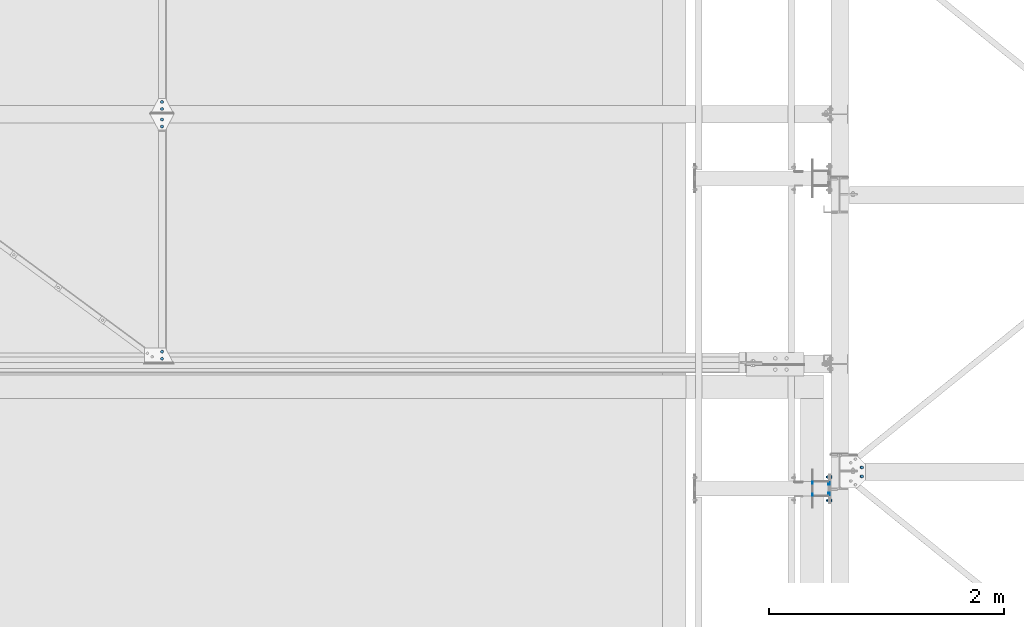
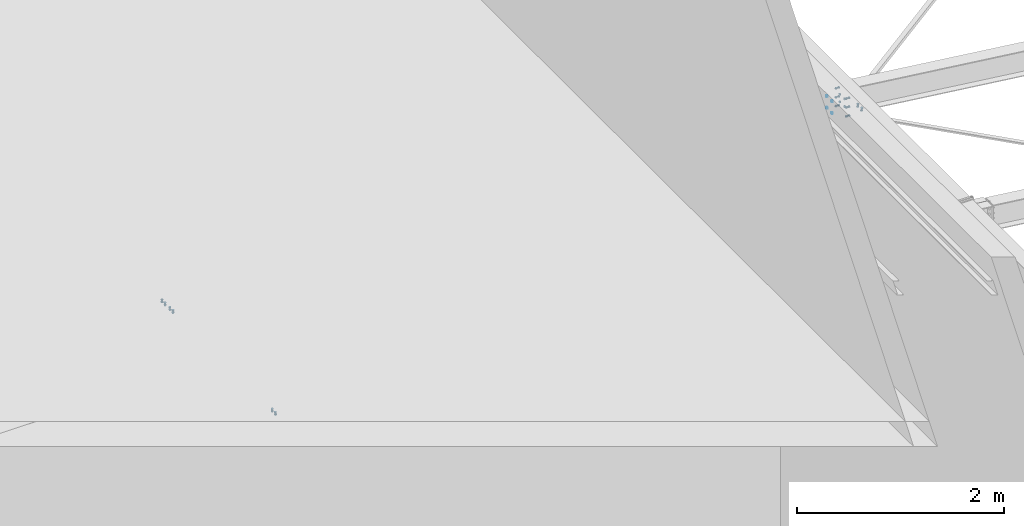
# One storey, part 32 of 3134: 7 mechanical fasteners, 5 elements without a shape of their own.
"""IFC2X3 building model written with IfcOpenShell, lengths in millimetres."""

from ifc_helpers import new_model, si_unit, frame, origin_with_axes, place, context, subcontext, project, spatial, faceted_brep, source, transform, mapped, material, type_object, element, aggregate, save


model = new_model("IFC2X3")

# Units and contexts
model_context = context("Model", 3, precision=1e-05, world=origin_with_axes())
body_context = subcontext(model_context, "Body", "Model", "MODEL_VIEW")
ifc_project = project(units=[si_unit("LENGTHUNIT", "METRE", prefix="MILLI"), si_unit("AREAUNIT", "SQUARE_METRE"), si_unit("VOLUMEUNIT", "CUBIC_METRE"), si_unit("MASSUNIT", "GRAM", prefix="KILO"), si_unit("TIMEUNIT", "SECOND"), si_unit("PLANEANGLEUNIT", "RADIAN"), si_unit("SOLIDANGLEUNIT", "STERADIAN"), si_unit("THERMODYNAMICTEMPERATUREUNIT", "DEGREE_CELSIUS"), si_unit("LUMINOUSINTENSITYUNIT", "LUMEN")], contexts=[model_context])

# Site, building, storey
site_placement = place(None, origin_with_axes())
site = spatial("IfcSite", under=ifc_project, at=site_placement, CompositionType="ELEMENT")
building_placement = place(site_placement, origin_with_axes())
building = spatial("IfcBuilding", under=site, at=building_placement, Name="Undefined", CompositionType="ELEMENT")
storey_placement = place(building_placement, origin_with_axes())
storey = spatial("IfcBuildingStorey", under=building, at=storey_placement, Name="Undefined", CompositionType="ELEMENT", Elevation=0.0)

# Assembly, mechanical fastener
assembly_1_placement = place(storey_placement, origin_with_axes())
assembly_1 = element("IfcElementAssembly", 1, at=assembly_1_placement, inside=storey, Name="300", AssemblyPlace="NOTDEFINED", PredefinedType="RIGID_FRAME")
ifc_material = material(Name="8.8")
mechanical_fastener_type = type_object("IfcMechanicalFastenerType", Name="Bolt assembly")
shared_shape_1 = source(origin_with_axes(), body_context, "Body", "Brep", [
    faceted_brep([(13.856406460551, -19.199990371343, 0.0), (6.92820323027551, -19.199990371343, 12.0), (-6.92820323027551, -19.199990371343, 12.0), (-13.856406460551, -19.199990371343, 1.69692038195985e-15), (-6.92820323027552, -19.199990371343, -12.0), (6.9282032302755, -19.199990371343, -12.0), (6.9282032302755, -9.19999037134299, -12.0), (-6.92820323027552, -9.19999037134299, -12.0), (-13.856406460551, -9.19999037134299, 1.69692038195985e-15), (-6.92820323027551, -9.19999037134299, 12.0), (6.92820323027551, -9.19999037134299, 12.0), (13.856406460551, -9.19999037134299, 0.0), (8.0, -9.19999037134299, 0.0), (6.92820323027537, -9.19999037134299, 4.00000000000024), (3.99999999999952, -9.19999037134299, 6.92820323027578), (-8.29068785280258e-13, -9.19999037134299, 8.0), (-4.00000000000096, -9.19999037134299, 6.92820323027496), (-6.9282032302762, -9.19999037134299, 3.99999999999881), (-8.0, -9.19999037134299, -1.65813757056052e-12), (-6.92820323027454, -9.19999037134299, -4.00000000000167), (-3.99999999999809, -9.19999037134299, -6.92820323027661), (2.47832457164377e-12, -9.19999037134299, -8.0), (4.00000000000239, -9.19999037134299, -6.92820323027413), (6.92820323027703, -9.19999037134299, -3.99999999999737), (6.92820323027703, 25.800009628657, -3.99999999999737), (4.00000000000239, 25.800009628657, -6.92820323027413), (2.47832457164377e-12, 25.800009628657, -8.0), (-3.99999999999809, 25.800009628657, -6.92820323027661), (-6.92820323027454, 25.800009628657, -4.00000000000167), (-8.0, 25.800009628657, -1.65813757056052e-12), (-6.9282032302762, 25.800009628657, 3.99999999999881), (-4.00000000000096, 25.800009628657, 6.92820323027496), (-8.29068785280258e-13, 25.800009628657, 8.0), (3.99999999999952, 25.800009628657, 6.92820323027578), (6.92820323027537, 25.800009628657, 4.00000000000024), (8.0, 25.800009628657, 0.0), (13.856406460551, 8.00000637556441, 0.0), (6.92820323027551, 8.00000637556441, 12.0), (-6.92820323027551, 8.00000637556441, 12.0), (-13.856406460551, 8.00000637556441, 1.69692038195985e-15), (-6.92820323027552, 8.00000637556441, -12.0), (6.9282032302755, 8.00000637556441, -12.0), (6.9282032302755, 21.0000063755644, -12.0), (-6.92820323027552, 21.0000063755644, -12.0), (-13.856406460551, 21.0000063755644, 1.69692038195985e-15), (-6.92820323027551, 21.0000063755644, 12.0), (6.92820323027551, 21.0000063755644, 12.0), (13.856406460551, 21.0000063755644, 0.0)], [[[0, 1, 2, 3, 4, 5]], [[6, 7, 8, 9, 10, 11]], [[0, 11, 10, 1]], [[1, 10, 9, 2]], [[2, 9, 8, 3]], [[3, 8, 7, 4]], [[4, 7, 6, 5]], [[5, 6, 11, 0]], [[12, 13, 14, 15, 16, 17, 18, 19, 20, 21, 22, 23]], [[24, 25, 26, 27, 28, 29, 30, 31, 32, 33, 34, 35]], [[12, 35, 34, 13]], [[13, 34, 33, 14]], [[14, 33, 32, 15]], [[15, 32, 31, 16]], [[16, 31, 30, 17]], [[17, 30, 29, 18]], [[18, 29, 28, 19]], [[19, 28, 27, 20]], [[20, 27, 26, 21]], [[21, 26, 25, 22]], [[22, 25, 24, 23]], [[23, 24, 35, 12]], [[36, 37, 38, 39, 40, 41]], [[42, 43, 44, 45, 46, 47]], [[36, 47, 46, 37]], [[37, 46, 45, 38]], [[38, 45, 44, 39]], [[39, 44, 43, 40]], [[40, 43, 42, 41]], [[41, 42, 47, 36]]]),
    faceted_brep([(9.0, -0.1, 0.0), (7.79422863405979, -0.1, 4.50000000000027), (4.49999999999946, -0.1, 7.79422863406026), (-9.3270238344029e-13, -0.1, 9.0), (-4.50000000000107, -0.1, 7.79422863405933), (-7.79422863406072, -0.1, 4.49999999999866), (-9.0, -0.1, -1.86540476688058e-12), (-7.79422863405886, -0.1, -4.50000000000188), (-4.49999999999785, -0.1, -7.79422863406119), (2.78811514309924e-12, -0.1, -9.0), (4.50000000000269, -0.1, -7.7942286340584), (7.79422863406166, -0.1, -4.49999999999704), (7.79422863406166, 8.00000000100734, -4.49999999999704), (4.50000000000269, 8.00000000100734, -7.7942286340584), (2.78811514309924e-12, 8.00000000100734, -9.0), (-4.49999999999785, 8.00000000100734, -7.79422863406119), (-7.79422863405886, 8.00000000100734, -4.50000000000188), (-9.0, 8.00000000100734, -1.86540476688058e-12), (-7.79422863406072, 8.00000000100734, 4.49999999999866), (-4.50000000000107, 8.00000000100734, 7.79422863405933), (-9.3270238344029e-13, 8.00000000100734, 9.0), (4.49999999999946, 8.00000000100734, 7.79422863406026), (7.79422863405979, 8.00000000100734, 4.50000000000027), (9.0, 8.00000000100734, 0.0), (9.0, -9.09999037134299, 0.0), (7.79422863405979, -9.09999037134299, 4.50000000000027), (4.49999999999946, -9.09999037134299, 7.79422863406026), (-9.3270238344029e-13, -9.09999037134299, 9.0), (-4.50000000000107, -9.09999037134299, 7.79422863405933), (-7.79422863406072, -9.09999037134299, 4.49999999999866), (-9.0, -9.09999037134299, -1.86540476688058e-12), (-7.79422863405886, -9.09999037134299, -4.50000000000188), (-4.49999999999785, -9.09999037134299, -7.79422863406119), (2.78811514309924e-12, -9.09999037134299, -9.0), (4.50000000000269, -9.09999037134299, -7.7942286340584), (7.79422863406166, -9.09999037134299, -4.49999999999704), (7.79422863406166, 0.100000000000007, -4.49999999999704), (4.50000000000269, 0.100000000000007, -7.7942286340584), (2.78811514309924e-12, 0.100000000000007, -9.0), (-4.49999999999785, 0.100000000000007, -7.79422863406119), (-7.79422863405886, 0.100000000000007, -4.50000000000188), (-9.0, 0.100000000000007, -1.86540476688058e-12), (-7.79422863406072, 0.100000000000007, 4.49999999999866), (-4.50000000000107, 0.100000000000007, 7.79422863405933), (-9.3270238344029e-13, 0.100000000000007, 9.0), (4.49999999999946, 0.100000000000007, 7.79422863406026), (7.79422863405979, 0.100000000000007, 4.50000000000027), (9.0, 0.100000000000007, 0.0)], [[[0, 1, 2, 3, 4, 5, 6, 7, 8, 9, 10, 11]], [[12, 13, 14, 15, 16, 17, 18, 19, 20, 21, 22, 23]], [[0, 23, 22, 1]], [[1, 22, 21, 2]], [[2, 21, 20, 3]], [[3, 20, 19, 4]], [[4, 19, 18, 5]], [[5, 18, 17, 6]], [[6, 17, 16, 7]], [[7, 16, 15, 8]], [[8, 15, 14, 9]], [[9, 14, 13, 10]], [[10, 13, 12, 11]], [[11, 12, 23, 0]], [[24, 25, 26, 27, 28, 29, 30, 31, 32, 33, 34, 35]], [[36, 37, 38, 39, 40, 41, 42, 43, 44, 45, 46, 47]], [[24, 47, 46, 25]], [[25, 46, 45, 26]], [[26, 45, 44, 27]], [[27, 44, 43, 28]], [[28, 43, 42, 29]], [[29, 42, 41, 30]], [[30, 41, 40, 31]], [[31, 40, 39, 32]], [[32, 39, 38, 33]], [[33, 38, 37, 34]], [[34, 37, 36, 35]], [[35, 36, 47, 24]]]),
])
mechanical_fastener_1_placement = place(assembly_1_placement, frame((21039.2248162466, 10047.9995130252, 5496.68063423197), z_axis=(0.992623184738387, 1.63108538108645e-05, -0.12124031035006), x_axis=(1.62000016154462e-05, -0.999999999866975, -1.90000018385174e-06)))
mechanical_fastener_1 = element("IfcMechanicalFastener", 2, at=mechanical_fastener_1_placement, type_object=mechanical_fastener_type, material=ifc_material, Name="Bolt assembly", NominalDiameter=16.0, NominalLength=35.0, context=body_context, shape_type="MappedRepresentation", body=[
    mapped(shared_shape_1, transform((0.0, 0.0, 0.0))),
    mapped(shared_shape_1, transform((76.0, 0.0, 0.0))),
])
aggregate(assembly_1, [mechanical_fastener_1])

# Assembly, mechanical fasteners
assembly_2_placement = place(storey_placement, origin_with_axes())
assembly_2 = element("IfcElementAssembly", 3, at=assembly_2_placement, inside=storey, AssemblyPlace="NOTDEFINED", PredefinedType="RIGID_FRAME")
shared_shape_2 = source(origin_with_axes(), body_context, "Body", "Brep", [
    faceted_brep([(9.0, -3.46568413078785e-07, 0.0), (7.79422863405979, -3.46568413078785e-07, 4.50000000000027), (4.49999999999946, -3.46568413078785e-07, 7.79422863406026), (-9.3270238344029e-13, -3.46568413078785e-07, 9.0), (-4.50000000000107, -3.46568413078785e-07, 7.79422863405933), (-7.79422863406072, -3.46568413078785e-07, 4.49999999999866), (-9.0, -3.46568413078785e-07, -1.86540476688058e-12), (-7.79422863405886, -3.46568413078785e-07, -4.50000000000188), (-4.49999999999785, -3.46568413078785e-07, -7.79422863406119), (2.78811514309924e-12, -3.46568413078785e-07, -9.0), (4.50000000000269, -3.46568413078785e-07, -7.7942286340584), (7.79422863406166, -3.46568413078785e-07, -4.49999999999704), (7.79422863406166, 6.1, -4.49999999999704), (4.50000000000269, 6.1, -7.7942286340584), (2.78811514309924e-12, 6.1, -9.0), (-4.49999999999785, 6.1, -7.79422863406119), (-7.79422863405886, 6.1, -4.50000000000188), (-9.0, 6.1, -1.86540476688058e-12), (-7.79422863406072, 6.1, 4.49999999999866), (-4.50000000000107, 6.1, 7.79422863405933), (-9.3270238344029e-13, 6.1, 9.0), (4.49999999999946, 6.1, 7.79422863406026), (7.79422863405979, 6.1, 4.50000000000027), (9.0, 6.1, 0.0)], [[[0, 1, 2, 3, 4, 5, 6, 7, 8, 9, 10, 11]], [[12, 13, 14, 15, 16, 17, 18, 19, 20, 21, 22, 23]], [[0, 23, 22, 1]], [[1, 22, 21, 2]], [[2, 21, 20, 3]], [[3, 20, 19, 4]], [[4, 19, 18, 5]], [[5, 18, 17, 6]], [[6, 17, 16, 7]], [[7, 16, 15, 8]], [[8, 15, 14, 9]], [[9, 14, 13, 10]], [[10, 13, 12, 11]], [[11, 12, 23, 0]]]),
])
mechanical_fastener_2_placement = place(assembly_2_placement, frame((20615.0, 9916.50190722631, 5760.0), z_axis=(0.0, 0.0, 1.0), x_axis=(0.0, -1.0, 0.0)))
mechanical_fastener_2 = element("IfcMechanicalFastener", 4, at=mechanical_fastener_2_placement, type_object=mechanical_fastener_type, material=ifc_material, Name="Bolt assembly", NominalDiameter=16.0, NominalLength=6.0, context=body_context, shape_type="MappedRepresentation", body=[
    mapped(shared_shape_2, transform((0.0, 0.0, -70.0))),
    mapped(shared_shape_2, transform((100.0, 0.0, -70.0))),
    mapped(shared_shape_2, transform((0.0, 0.0, 70.0))),
    mapped(shared_shape_2, transform((100.0, 0.0, 70.0))),
])
shared_shape_3 = source(origin_with_axes(), body_context, "Body", "Brep", [
    faceted_brep([(11.0, 0.0, 0.0), (9.52627944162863, 0.0, 5.50000000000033), (5.49999999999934, 0.0, 9.5262794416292), (-1.13996957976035e-12, 0.0, 11.0), (-5.50000000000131, 0.0, 9.52627944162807), (-9.52627944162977, 0.0, 5.49999999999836), (-11.0, 0.0, -2.27993915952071e-12), (-9.5262794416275, 0.0, -5.5000000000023), (-5.49999999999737, 0.0, -9.52627944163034), (3.40769628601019e-12, 0.0, -11.0), (5.50000000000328, 0.0, -9.52627944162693), (9.52627944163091, 0.0, -5.49999999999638), (9.52627944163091, 10.1, -5.49999999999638), (5.50000000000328, 10.1, -9.52627944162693), (3.40769628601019e-12, 10.1, -11.0), (-5.49999999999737, 10.1, -9.52627944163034), (-9.5262794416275, 10.1, -5.5000000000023), (-11.0, 10.1, -2.27993915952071e-12), (-9.52627944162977, 10.1, 5.49999999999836), (-5.50000000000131, 10.1, 9.52627944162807), (-1.13996957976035e-12, 10.1, 11.0), (5.49999999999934, 10.1, 9.5262794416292), (9.52627944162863, 10.1, 5.50000000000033), (11.0, 10.1, 0.0)], [[[0, 1, 2, 3, 4, 5, 6, 7, 8, 9, 10, 11]], [[12, 13, 14, 15, 16, 17, 18, 19, 20, 21, 22, 23]], [[0, 23, 22, 1]], [[1, 22, 21, 2]], [[2, 21, 20, 3]], [[3, 20, 19, 4]], [[4, 19, 18, 5]], [[5, 18, 17, 6]], [[6, 17, 16, 7]], [[7, 16, 15, 8]], [[8, 15, 14, 9]], [[9, 14, 13, 10]], [[10, 13, 12, 11]], [[11, 12, 23, 0]]]),
])
mechanical_fastener_3_placement = place(assembly_2_placement, frame((20755.0, 9911.50190722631, 5760.0), z_axis=(0.0, 0.0, 1.0), x_axis=(0.0, -1.0, 0.0)))
mechanical_fastener_3 = element("IfcMechanicalFastener", 5, at=mechanical_fastener_3_placement, type_object=mechanical_fastener_type, material=ifc_material, Name="Bolt assembly", NominalDiameter=20.0, NominalLength=10.0, context=body_context, shape_type="MappedRepresentation", body=[
    mapped(shared_shape_3, transform((0.0, 0.0, -45.0))),
    mapped(shared_shape_3, transform((90.0, 0.0, -45.0))),
    mapped(shared_shape_3, transform((0.0, 0.0, 45.0))),
    mapped(shared_shape_3, transform((90.0, 0.0, 45.0))),
])
aggregate(assembly_2, [mechanical_fastener_3, mechanical_fastener_2])

# Assembly, mechanical fastener
assembly_3_placement = place(storey_placement, origin_with_axes())
assembly_3 = element("IfcElementAssembly", 6, at=assembly_3_placement, inside=storey, Name="300", AssemblyPlace="NOTDEFINED", PredefinedType="RIGID_FRAME")
shared_shape_4 = source(origin_with_axes(), body_context, "Body", "Brep", [
    faceted_brep([(13.856406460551, -30.0, 0.0), (6.92820323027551, -30.0, 12.0), (-6.92820323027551, -30.0, 12.0), (-13.856406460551, -30.0, 1.69692038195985e-15), (-6.92820323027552, -30.0, -12.0), (6.9282032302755, -30.0, -12.0), (6.9282032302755, -20.0, -12.0), (-6.92820323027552, -20.0, -12.0), (-13.856406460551, -20.0, 1.69692038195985e-15), (-6.92820323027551, -20.0, 12.0), (6.92820323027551, -20.0, 12.0), (13.856406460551, -20.0, 0.0), (8.0, -20.0, 0.0), (6.92820323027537, -20.0, 4.00000000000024), (3.99999999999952, -20.0, 6.92820323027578), (-8.29068785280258e-13, -20.0, 8.0), (-4.00000000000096, -20.0, 6.92820323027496), (-6.9282032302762, -20.0, 3.99999999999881), (-8.0, -20.0, -1.65813757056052e-12), (-6.92820323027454, -20.0, -4.00000000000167), (-3.99999999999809, -20.0, -6.92820323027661), (2.47832457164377e-12, -20.0, -8.0), (4.00000000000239, -20.0, -6.92820323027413), (6.92820323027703, -20.0, -3.99999999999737), (6.92820323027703, 20.0, -3.99999999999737), (4.00000000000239, 20.0, -6.92820323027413), (2.47832457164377e-12, 20.0, -8.0), (-3.99999999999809, 20.0, -6.92820323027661), (-6.92820323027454, 20.0, -4.00000000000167), (-8.0, 20.0, -1.65813757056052e-12), (-6.9282032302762, 20.0, 3.99999999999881), (-4.00000000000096, 20.0, 6.92820323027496), (-8.29068785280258e-13, 20.0, 8.0), (3.99999999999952, 20.0, 6.92820323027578), (6.92820323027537, 20.0, 4.00000000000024), (8.0, 20.0, 0.0), (13.856406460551, 0.0, 0.0), (6.92820323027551, 0.0, 12.0), (-6.92820323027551, 0.0, 12.0), (-13.856406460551, 0.0, 1.69692038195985e-15), (-6.92820323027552, 0.0, -12.0), (6.9282032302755, 0.0, -12.0), (6.9282032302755, 12.9999996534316, -12.0), (-6.92820323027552, 12.9999996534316, -12.0), (-13.856406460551, 12.9999996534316, 1.69692038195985e-15), (-6.92820323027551, 12.9999996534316, 12.0), (6.92820323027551, 12.9999996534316, 12.0), (13.856406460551, 12.9999996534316, 0.0)], [[[0, 1, 2, 3, 4, 5]], [[6, 7, 8, 9, 10, 11]], [[0, 11, 10, 1]], [[1, 10, 9, 2]], [[2, 9, 8, 3]], [[3, 8, 7, 4]], [[4, 7, 6, 5]], [[5, 6, 11, 0]], [[12, 13, 14, 15, 16, 17, 18, 19, 20, 21, 22, 23]], [[24, 25, 26, 27, 28, 29, 30, 31, 32, 33, 34, 35]], [[12, 35, 34, 13]], [[13, 34, 33, 14]], [[14, 33, 32, 15]], [[15, 32, 31, 16]], [[16, 31, 30, 17]], [[17, 30, 29, 18]], [[18, 29, 28, 19]], [[19, 28, 27, 20]], [[20, 27, 26, 21]], [[21, 26, 25, 22]], [[22, 25, 24, 23]], [[23, 24, 35, 12]], [[36, 37, 38, 39, 40, 41]], [[42, 43, 44, 45, 46, 47]], [[36, 47, 46, 37]], [[37, 46, 45, 38]], [[38, 45, 44, 39]], [[39, 44, 43, 40]], [[40, 43, 42, 41]], [[41, 42, 47, 36]]]),
    faceted_brep([(9.0, -10.1000003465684, 0.0), (7.79422863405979, -10.1000003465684, 4.50000000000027), (4.49999999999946, -10.1000003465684, 7.79422863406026), (-9.3270238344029e-13, -10.1000003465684, 9.0), (-4.50000000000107, -10.1000003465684, 7.79422863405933), (-7.79422863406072, -10.1000003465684, 4.49999999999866), (-9.0, -10.1000003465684, -1.86540476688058e-12), (-7.79422863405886, -10.1000003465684, -4.50000000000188), (-4.49999999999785, -10.1000003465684, -7.79422863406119), (2.78811514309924e-12, -10.1000003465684, -9.0), (4.50000000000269, -10.1000003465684, -7.7942286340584), (7.79422863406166, -10.1000003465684, -4.49999999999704), (7.79422863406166, -3.46568413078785e-07, -4.49999999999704), (4.50000000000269, -3.46568413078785e-07, -7.7942286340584), (2.78811514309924e-12, -3.46568413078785e-07, -9.0), (-4.49999999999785, -3.46568413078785e-07, -7.79422863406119), (-7.79422863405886, -3.46568413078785e-07, -4.50000000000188), (-9.0, -3.46568413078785e-07, -1.86540476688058e-12), (-7.79422863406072, -3.46568413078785e-07, 4.49999999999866), (-4.50000000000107, -3.46568413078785e-07, 7.79422863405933), (-9.3270238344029e-13, -3.46568413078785e-07, 9.0), (4.49999999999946, -3.46568413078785e-07, 7.79422863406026), (7.79422863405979, -3.46568413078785e-07, 4.50000000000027), (9.0, -3.46568413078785e-07, 0.0), (9.0, -19.9, 0.0), (7.79422863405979, -19.9, 4.50000000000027), (4.49999999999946, -19.9, 7.79422863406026), (-9.3270238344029e-13, -19.9, 9.0), (-4.50000000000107, -19.9, 7.79422863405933), (-7.79422863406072, -19.9, 4.49999999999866), (-9.0, -19.9, -1.86540476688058e-12), (-7.79422863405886, -19.9, -4.50000000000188), (-4.49999999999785, -19.9, -7.79422863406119), (2.78811514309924e-12, -19.9, -9.0), (4.50000000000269, -19.9, -7.7942286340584), (7.79422863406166, -19.9, -4.49999999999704), (7.79422863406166, -9.89999997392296, -4.49999999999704), (4.50000000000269, -9.89999997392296, -7.7942286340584), (2.78811514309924e-12, -9.89999997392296, -9.0), (-4.49999999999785, -9.89999997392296, -7.79422863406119), (-7.79422863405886, -9.89999997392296, -4.50000000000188), (-9.0, -9.89999997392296, -1.86540476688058e-12), (-7.79422863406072, -9.89999997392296, 4.49999999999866), (-4.50000000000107, -9.89999997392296, 7.79422863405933), (-9.3270238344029e-13, -9.89999997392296, 9.0), (4.49999999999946, -9.89999997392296, 7.79422863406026), (7.79422863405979, -9.89999997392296, 4.50000000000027), (9.0, -9.89999997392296, 0.0)], [[[0, 1, 2, 3, 4, 5, 6, 7, 8, 9, 10, 11]], [[12, 13, 14, 15, 16, 17, 18, 19, 20, 21, 22, 23]], [[0, 23, 22, 1]], [[1, 22, 21, 2]], [[2, 21, 20, 3]], [[3, 20, 19, 4]], [[4, 19, 18, 5]], [[5, 18, 17, 6]], [[6, 17, 16, 7]], [[7, 16, 15, 8]], [[8, 15, 14, 9]], [[9, 14, 13, 10]], [[10, 13, 12, 11]], [[11, 12, 23, 0]], [[24, 25, 26, 27, 28, 29, 30, 31, 32, 33, 34, 35]], [[36, 37, 38, 39, 40, 41, 42, 43, 44, 45, 46, 47]], [[24, 47, 46, 25]], [[25, 46, 45, 26]], [[26, 45, 44, 27]], [[27, 44, 43, 28]], [[28, 43, 42, 29]], [[29, 42, 41, 30]], [[30, 41, 40, 31]], [[31, 40, 39, 32]], [[32, 39, 38, 33]], [[33, 38, 37, 34]], [[34, 37, 36, 35]], [[35, 36, 47, 24]]]),
])
mechanical_fastener_4_placement = place(assembly_3_placement, frame((20755.0, 9866.50190722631, 5846.5), z_axis=(0.0, 1.0, 0.0), x_axis=(0.0, 0.0, -1.0)))
mechanical_fastener_4 = element("IfcMechanicalFastener", 7, at=mechanical_fastener_4_placement, type_object=mechanical_fastener_type, material=ifc_material, Name="Bolt assembly", NominalDiameter=16.0, NominalLength=40.0, context=body_context, shape_type="MappedRepresentation", body=[
    mapped(shared_shape_4, transform((0.0, 0.0, -100.0))),
    mapped(shared_shape_4, transform((105.0, 0.0, -100.0))),
    mapped(shared_shape_4, transform((210.0, 0.0, -100.0))),
    mapped(shared_shape_4, transform((0.0, 0.0, 100.0))),
    mapped(shared_shape_4, transform((105.0, 0.0, 100.0))),
    mapped(shared_shape_4, transform((210.0, 0.0, 100.0))),
])
aggregate(assembly_3, [mechanical_fastener_4])

assembly_4_placement = place(storey_placement, origin_with_axes())
assembly_4 = element("IfcElementAssembly", 8, at=assembly_4_placement, inside=storey, Name="300", AssemblyPlace="NOTDEFINED", PredefinedType="RIGID_FRAME")
shared_shape_5 = source(origin_with_axes(), body_context, "Body", "Brep", [
    faceted_brep([(13.856406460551, -21.0000017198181, 0.0), (6.92820323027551, -21.0000017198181, 12.0), (-6.92820323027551, -21.0000017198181, 12.0), (-13.856406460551, -21.0000017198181, 1.69692038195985e-15), (-6.92820323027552, -21.0000017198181, -12.0), (6.9282032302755, -21.0000017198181, -12.0), (6.9282032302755, -11.0000017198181, -12.0), (-6.92820323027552, -11.0000017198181, -12.0), (-13.856406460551, -11.0000017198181, 1.69692038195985e-15), (-6.92820323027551, -11.0000017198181, 12.0), (6.92820323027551, -11.0000017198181, 12.0), (13.856406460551, -11.0000017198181, 0.0), (8.0, -11.0000017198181, 0.0), (6.92820323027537, -11.0000017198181, 4.00000000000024), (3.99999999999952, -11.0000017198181, 6.92820323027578), (-8.29068785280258e-13, -11.0000017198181, 8.0), (-4.00000000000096, -11.0000017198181, 6.92820323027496), (-6.9282032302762, -11.0000017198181, 3.99999999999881), (-8.0, -11.0000017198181, -1.65813757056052e-12), (-6.92820323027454, -11.0000017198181, -4.00000000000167), (-3.99999999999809, -11.0000017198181, -6.92820323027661), (2.47832457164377e-12, -11.0000017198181, -8.0), (4.00000000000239, -11.0000017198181, -6.92820323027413), (6.92820323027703, -11.0000017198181, -3.99999999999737), (6.92820323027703, 23.9999999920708, -3.99999999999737), (4.00000000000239, 23.9999999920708, -6.92820323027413), (2.47832457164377e-12, 23.9999999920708, -8.0), (-3.99999999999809, 23.9999999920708, -6.92820323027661), (-6.92820323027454, 23.9999999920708, -4.00000000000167), (-8.0, 23.9999999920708, -1.65813757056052e-12), (-6.9282032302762, 23.9999999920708, 3.99999999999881), (-4.00000000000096, 23.9999999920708, 6.92820323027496), (-8.29068785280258e-13, 23.9999999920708, 8.0), (3.99999999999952, 23.9999999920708, 6.92820323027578), (6.92820323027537, 23.9999999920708, 4.00000000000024), (8.0, 23.9999999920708, 0.0), (13.856406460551, 3.99999999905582, 0.0), (6.92820323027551, 3.99999999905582, 12.0), (-6.92820323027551, 3.99999999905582, 12.0), (-13.856406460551, 3.99999999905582, 1.69692038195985e-15), (-6.92820323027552, 3.99999999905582, -12.0), (6.9282032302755, 3.99999999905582, -12.0), (6.9282032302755, 16.9999999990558, -12.0), (-6.92820323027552, 16.9999999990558, -12.0), (-13.856406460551, 16.9999999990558, 1.69692038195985e-15), (-6.92820323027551, 16.9999999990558, 12.0), (6.92820323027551, 16.9999999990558, 12.0), (13.856406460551, 16.9999999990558, 0.0)], [[[0, 1, 2, 3, 4, 5]], [[6, 7, 8, 9, 10, 11]], [[0, 11, 10, 1]], [[1, 10, 9, 2]], [[2, 9, 8, 3]], [[3, 8, 7, 4]], [[4, 7, 6, 5]], [[5, 6, 11, 0]], [[12, 13, 14, 15, 16, 17, 18, 19, 20, 21, 22, 23]], [[24, 25, 26, 27, 28, 29, 30, 31, 32, 33, 34, 35]], [[12, 35, 34, 13]], [[13, 34, 33, 14]], [[14, 33, 32, 15]], [[15, 32, 31, 16]], [[16, 31, 30, 17]], [[17, 30, 29, 18]], [[18, 29, 28, 19]], [[19, 28, 27, 20]], [[20, 27, 26, 21]], [[21, 26, 25, 22]], [[22, 25, 24, 23]], [[23, 24, 35, 12]], [[36, 37, 38, 39, 40, 41]], [[42, 43, 44, 45, 46, 47]], [[36, 47, 46, 37]], [[37, 46, 45, 38]], [[38, 45, 44, 39]], [[39, 44, 43, 40]], [[40, 43, 42, 41]], [[41, 42, 47, 36]]]),
    faceted_brep([(9.0, -10.9000017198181, 0.0), (7.79422863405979, -10.9000017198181, 4.50000000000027), (4.49999999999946, -10.9000017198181, 7.79422863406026), (-9.3270238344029e-13, -10.9000017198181, 9.0), (-4.50000000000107, -10.9000017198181, 7.79422863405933), (-7.79422863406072, -10.9000017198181, 4.49999999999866), (-9.0, -10.9000017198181, -1.86540476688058e-12), (-7.79422863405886, -10.9000017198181, -4.50000000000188), (-4.49999999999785, -10.9000017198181, -7.79422863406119), (2.78811514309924e-12, -10.9000017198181, -9.0), (4.50000000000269, -10.9000017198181, -7.7942286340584), (7.79422863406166, -10.9000017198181, -4.49999999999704), (7.79422863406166, -3.9, -4.49999999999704), (4.50000000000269, -3.9, -7.7942286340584), (2.78811514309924e-12, -3.9, -9.0), (-4.49999999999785, -3.9, -7.79422863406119), (-7.79422863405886, -3.9, -4.50000000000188), (-9.0, -3.9, -1.86540476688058e-12), (-7.79422863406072, -3.9, 4.49999999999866), (-4.50000000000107, -3.9, 7.79422863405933), (-9.3270238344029e-13, -3.9, 9.0), (4.49999999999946, -3.9, 7.79422863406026), (7.79422863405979, -3.9, 4.50000000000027), (9.0, -3.9, 0.0), (9.0, -4.10000000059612, 0.0), (7.79422863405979, -4.10000000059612, 4.50000000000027), (4.49999999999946, -4.10000000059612, 7.79422863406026), (-9.3270238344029e-13, -4.10000000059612, 9.0), (-4.50000000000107, -4.10000000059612, 7.79422863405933), (-7.79422863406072, -4.10000000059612, 4.49999999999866), (-9.0, -4.10000000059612, -1.86540476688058e-12), (-7.79422863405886, -4.10000000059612, -4.50000000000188), (-4.49999999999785, -4.10000000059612, -7.79422863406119), (2.78811514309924e-12, -4.10000000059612, -9.0), (4.50000000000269, -4.10000000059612, -7.7942286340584), (7.79422863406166, -4.10000000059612, -4.49999999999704), (7.79422863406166, 4.00000375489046, -4.49999999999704), (4.50000000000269, 4.00000375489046, -7.7942286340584), (2.78811514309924e-12, 4.00000375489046, -9.0), (-4.49999999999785, 4.00000375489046, -7.79422863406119), (-7.79422863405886, 4.00000375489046, -4.50000000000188), (-9.0, 4.00000375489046, -1.86540476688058e-12), (-7.79422863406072, 4.00000375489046, 4.49999999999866), (-4.50000000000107, 4.00000375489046, 7.79422863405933), (-9.3270238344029e-13, 4.00000375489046, 9.0), (4.49999999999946, 4.00000375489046, 7.79422863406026), (7.79422863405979, 4.00000375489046, 4.50000000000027), (9.0, 4.00000375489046, 0.0)], [[[0, 1, 2, 3, 4, 5, 6, 7, 8, 9, 10, 11]], [[12, 13, 14, 15, 16, 17, 18, 19, 20, 21, 22, 23]], [[0, 23, 22, 1]], [[1, 22, 21, 2]], [[2, 21, 20, 3]], [[3, 20, 19, 4]], [[4, 19, 18, 5]], [[5, 18, 17, 6]], [[6, 17, 16, 7]], [[7, 16, 15, 8]], [[8, 15, 14, 9]], [[9, 14, 13, 10]], [[10, 13, 12, 11]], [[11, 12, 23, 0]], [[24, 25, 26, 27, 28, 29, 30, 31, 32, 33, 34, 35]], [[36, 37, 38, 39, 40, 41, 42, 43, 44, 45, 46, 47]], [[24, 47, 46, 25]], [[25, 46, 45, 26]], [[26, 45, 44, 27]], [[27, 44, 43, 28]], [[28, 43, 42, 29]], [[29, 42, 41, 30]], [[30, 41, 40, 31]], [[31, 40, 39, 32]], [[32, 39, 38, 33]], [[33, 38, 37, 34]], [[34, 37, 36, 35]], [[35, 36, 47, 24]]]),
])
mechanical_fastener_5_placement = place(assembly_4_placement, frame((15072.5010771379, 10975.0, 3386.35293761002), z_axis=(-0.999519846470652, 0.0, -0.0309851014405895), x_axis=(0.0, 1.0, 0.0)))
mechanical_fastener_5 = element("IfcMechanicalFastener", 9, at=mechanical_fastener_5_placement, type_object=mechanical_fastener_type, material=ifc_material, Name="Bolt assembly", NominalDiameter=16.0, NominalLength=35.0, context=body_context, shape_type="MappedRepresentation", body=[
    mapped(shared_shape_5, transform((0.0, 0.0, 0.0))),
    mapped(shared_shape_5, transform((59.9999999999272, 0.0, 5.40239852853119e-10))),
])
aggregate(assembly_4, [mechanical_fastener_5])

# Assembly, mechanical fasteners
assembly_5_placement = place(storey_placement, origin_with_axes())
assembly_5 = element("IfcElementAssembly", 10, at=assembly_5_placement, inside=storey, Name="300", AssemblyPlace="NOTDEFINED", PredefinedType="RIGID_FRAME")
mechanical_fastener_6_placement = place(assembly_5_placement, frame((15072.5010771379, 12955.0, 3386.35293761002), z_axis=(-0.999519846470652, 0.0, -0.0309851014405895), x_axis=(0.0, 1.0, 0.0)))
mechanical_fastener_6 = element("IfcMechanicalFastener", 11, at=mechanical_fastener_6_placement, type_object=mechanical_fastener_type, material=ifc_material, Name="Bolt assembly", NominalDiameter=16.0, NominalLength=35.0, context=body_context, shape_type="MappedRepresentation", body=[
    mapped(shared_shape_5, transform((0.0, 0.0, 0.0))),
    mapped(shared_shape_5, transform((59.9999999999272, 0.0, 5.40239852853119e-10))),
])
mechanical_fastener_7_placement = place(assembly_5_placement, frame((15072.5010771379, 13105.0, 3386.35293761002), z_axis=(-0.999519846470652, 0.0, -0.0309851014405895), x_axis=(0.0, 1.0, 0.0)))
mechanical_fastener_7 = element("IfcMechanicalFastener", 12, at=mechanical_fastener_7_placement, type_object=mechanical_fastener_type, material=ifc_material, Name="Bolt assembly", NominalDiameter=16.0, NominalLength=35.0, context=body_context, shape_type="MappedRepresentation", body=[
    mapped(shared_shape_5, transform((0.0, 0.0, 0.0))),
    mapped(shared_shape_5, transform((59.9999999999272, 0.0, 5.40239852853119e-10))),
])
aggregate(assembly_5, [mechanical_fastener_6, mechanical_fastener_7])

save(model, "model.ifc")
